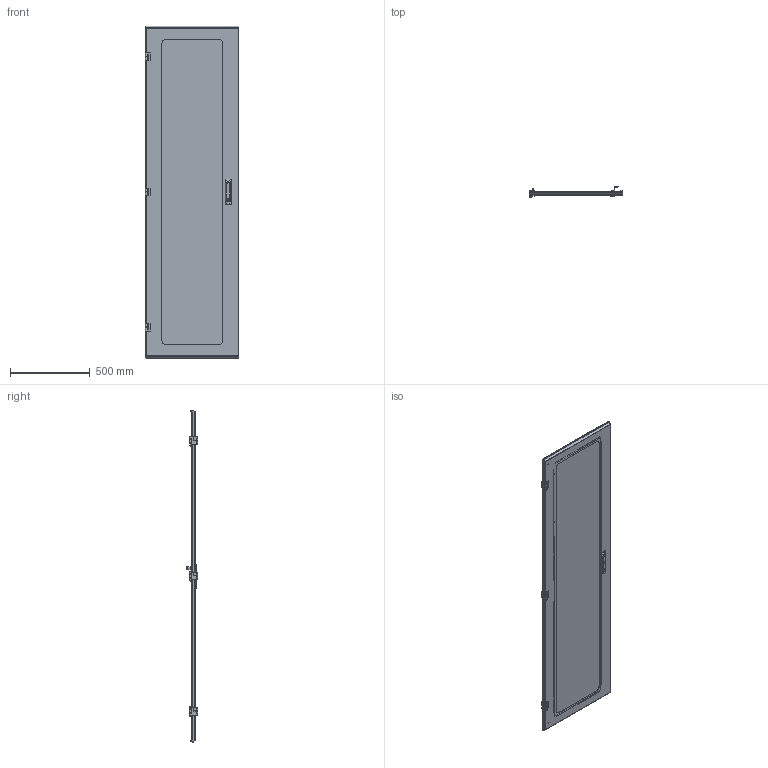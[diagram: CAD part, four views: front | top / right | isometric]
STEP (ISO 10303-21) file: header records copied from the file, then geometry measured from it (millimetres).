
FILE_DESCRIPTION(/* description */ ('Unknown'),/* implementation_level */ '2;1');
FILE_NAME(/* name */ 'C4D2477WBK1',/* time_stamp */ '2026-03-20T15:25:33-04:00',/* author */ ('Unknown'),/* organization */ ('Unknown'),/* preprocessor_version */ 'ST-DEVELOPER v18.104',/* originating_system */ 'Solid Edge',/* authorisation */ 'Unknown');
FILE_SCHEMA (('AUTOMOTIVE_DESIGN {1 0 10303 214 3 1 1}'));
Products named in the file (18): C4D2477W; BMP01631; COM57696-23; std26020; HNG14604; HNG14604-3; HNG14604-2; HNG14604-1; HNG14604-1A; HNG14604-1B; HNG14604-1C; COM57698-23; LOC88025; COM54241; NTS17050; COM54432; COM57701
Assembly tree (58 placements, depth 4):
  C4D2477W
    BMP01631  x3
    COM57696-23
      COM57696-23
      std26020  x18
    HNG14604  x3
      HNG14604-3
      HNG14604-2
      HNG14604-1
        HNG14604-1A
        HNG14604-1B
        HNG14604-1C
    COM57698-23
    LOC88025
    COM54241  x2
    NTS17050  x16
    COM54432  x4
    COM57701
Bounding box: 588.32 x 70.33 x 2084.39 mm (x, y, z)
Volume: 6254928.8 mm3; surface area: 3234724.3 mm2
Topology: 73 solids, 73 shells, 4634 faces, 11808 edges, 7578 vertices
Faces by surface type: plane 2932, cylinder 1028, bspline 340, torus 131, sphere 113, cone 90
Full cylindrical faces by diameter (mm): 3.1 x3, 3.967 x16, 4.2 x2, 4.297 x3, 4.641 x1, 4.775 x18, 4.8 x1, 5 x3, 5.2 x1, 5.5 x2, 6 x9, 6.02 x3, 6.1 x3, 6.2 x12, 6.35 x18, 6.5 x1, 6.6 x1, 9.3 x1, 9.95 x12, 10 x3, 10.312 x6, 11 x1, 11.05 x1, 11.9 x1, 12 x6, 12.05 x1, 13.5 x1, 16.1 x1, 16.7 x1, 16.8 x1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
Entity records: 112110 total; most frequent: CARTESIAN_POINT 37607, ORIENTED_EDGE 16130, DIRECTION 14013, EDGE_CURVE 8065, VERTEX_POINT 5195, LINE 4797, VECTOR 4797, AXIS2_PLACEMENT_3D 4608
